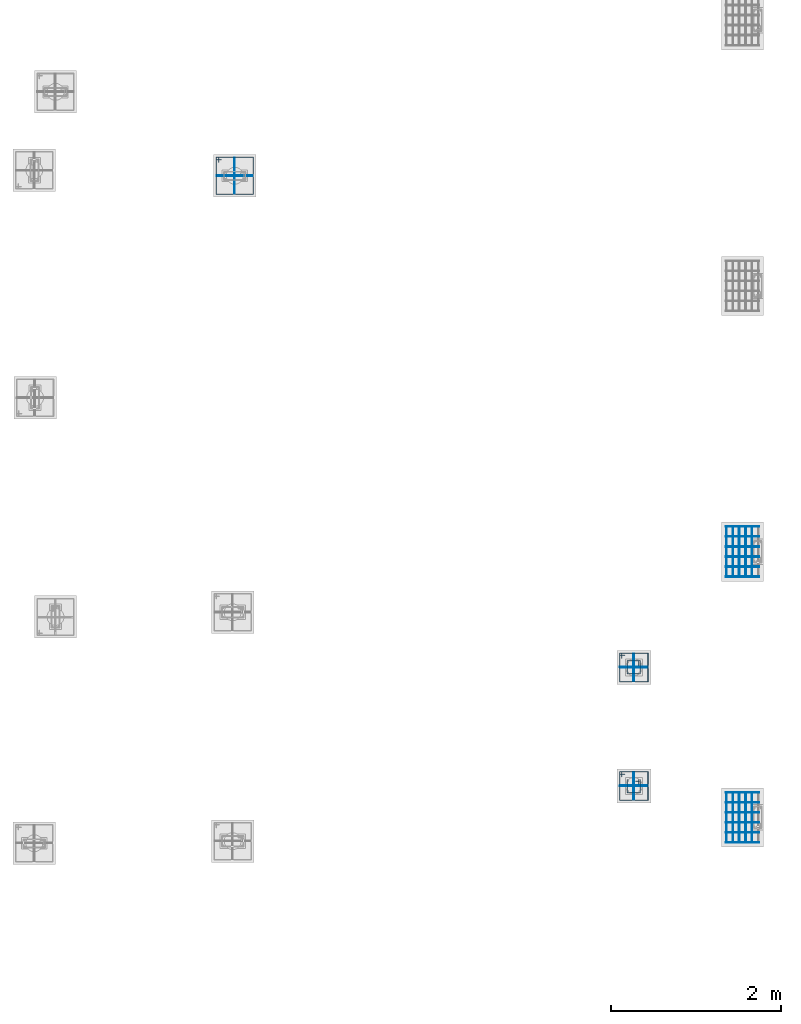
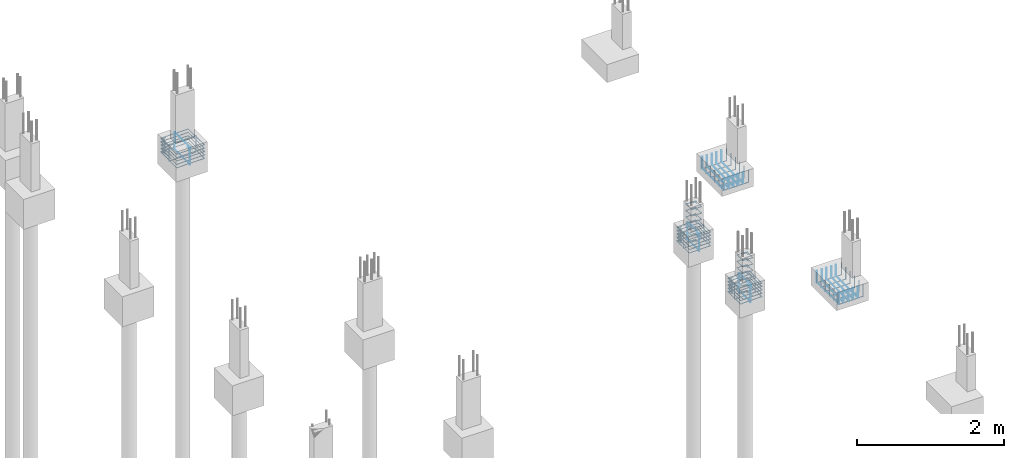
# One storey, part 115 of 119: 57 reinforcing bars.
"""IFC4 building model written with IfcOpenShell, lengths in centimetres."""

from ifc_helpers import new_model, entity, si_unit, derived_unit, frame, origin_with_axes, place, context, project, spatial, source, transform, mapped, element, save


model = new_model("IFC4")

# Units and contexts
model_context = context("Model", 3, precision=1e-05, world=origin_with_axes(), identifier="Body")
ifc_project = project(units=[si_unit("LENGTHUNIT", "METRE", prefix="CENTI"), si_unit("VOLUMEUNIT", "CUBIC_METRE"), si_unit("AREAUNIT", "SQUARE_METRE"), si_unit("POWERUNIT", "WATT"), si_unit("LUMINOUSFLUXUNIT", "LUMEN"), si_unit("ELECTRICCURRENTUNIT", "AMPERE"), si_unit("PRESSUREUNIT", "PASCAL", prefix="KILO"), si_unit("MASSUNIT", "GRAM", prefix="KILO"), si_unit("PLANEANGLEUNIT", "RADIAN"), derived_unit("VOLUMETRICFLOWRATEUNIT", [(si_unit("LENGTHUNIT", "METRE"), 3), (si_unit("TIMEUNIT", "SECOND"), -1)])], contexts=[model_context])

# Site, building, storey
site_placement = place(None, frame((-4000.0, 0.0, 0.0), z_axis=(0.0, 0.0, 1.0), x_axis=(1.0, 0.0, 0.0)))
site = spatial("IfcSite", under=ifc_project, at=site_placement, Name="PADRÃO")
building_placement = place(site_placement, frame((0.0, 0.0, -14.0)))
building = spatial("IfcBuilding", under=site, at=building_placement, Name="CRECHE PRÉ-ESCOLA TIPO 2")
storey_placement = place(building_placement, origin_with_axes())
storey = spatial("IfcBuildingStorey", under=building, at=storey_placement, Name="FUNDAÇÃO", CompositionType="ELEMENT", Elevation=-14.0)

# Reinforcing bars
shared_shape_1 = source(origin_with_axes(), model_context, "Body", "AdvancedSweptSolid", [
    entity("IfcSweptDiskSolid", entity("IfcCompositeCurve", [entity("IfcCompositeCurveSegment", "CONTINUOUS", True, entity("IfcPolyline", [entity("IfcCartesianPoint", [0.0, 0.0, 19.6]), entity("IfcCartesianPoint", [0.0, 0.0, 0.0])])), entity("IfcCompositeCurveSegment", "CONTINUOUS", True, entity("IfcPolyline", [entity("IfcCartesianPoint", [0.0, 0.0, 0.0]), entity("IfcCartesianPoint", [39.2, 0.0, 0.0])])), entity("IfcCompositeCurveSegment", "CONTINUOUS", True, entity("IfcPolyline", [entity("IfcCartesianPoint", [39.2, 0.0, 0.0]), entity("IfcCartesianPoint", [39.2, 0.0, 19.6])]))], False), 0.4),
])
for number, where, z_axis, x_axis, name in (
    (1, (3993.6, 3245.76, -83.6), (0.0, 0.0, 1.0), (-1.0, 0.0, 0.0), "P57 - Sapatas (inferior)"),
    (2, (3993.6, 3198.4, -83.6), (0.0, 0.0, 1.0), (-1.0, 0.0, 0.0), "P57 - Sapatas (inferior)"),
    (3, (3993.6, 3210.24, -83.6), (0.0, 0.0, 1.0), (-1.0, 0.0, 0.0), "P57 - Sapatas (inferior)"),
    (4, (3993.6, 3222.08, -83.6), (0.0, 0.0, 1.0), (-1.0, 0.0, 0.0), "P57 - Sapatas (inferior)"),
    (5, (3993.6, 3233.92, -83.6), (0.0, 0.0, 1.0), (-1.0, 0.0, 0.0), "P57 - Sapatas (inferior)"),
    (6, (3993.6, 3257.6, -83.6), (0.0, 0.0, 1.0), (-1.0, 0.0, 0.0), "P57 - Sapatas (inferior)"),
):
    element("IfcReinforcingBar", number, at=place(storey_placement, frame(where, z_axis=z_axis, x_axis=x_axis)), inside=storey, Name=name, BarLength=0.0, CrossSectionArea=5.0265482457e-05, NominalDiameter=0.8, PredefinedType="MAIN", context=model_context, shape_type="MappedRepresentation", body=[
        mapped(shared_shape_1, transform((0.0, 0.0, 0.0), scale=1.0)),
    ])
shared_shape_2 = source(origin_with_axes(), model_context, "Body", "AdvancedSweptSolid", [
    entity("IfcSweptDiskSolid", entity("IfcCompositeCurve", [entity("IfcCompositeCurveSegment", "CONTINUOUS", True, entity("IfcPolyline", [entity("IfcCartesianPoint", [0.0, 0.0, 18.8]), entity("IfcCartesianPoint", [0.0, 0.0, 0.0])])), entity("IfcCompositeCurveSegment", "CONTINUOUS", True, entity("IfcPolyline", [entity("IfcCartesianPoint", [0.0, 0.0, 0.0]), entity("IfcCartesianPoint", [0.0, 59.2, 0.0])])), entity("IfcCompositeCurveSegment", "CONTINUOUS", True, entity("IfcPolyline", [entity("IfcCartesianPoint", [0.0, 59.2, 0.0]), entity("IfcCartesianPoint", [0.0, 59.2, 18.8])]))], False), 0.4),
])
for number, where, z_axis, x_axis, name in (
    (7, (3985.28, 3257.6, -82.8), (0.0, 0.0, 1.0), (-1.0, 0.0, 0.0), "P57 - Sapatas (inferior)"),
    (8, (3962.72, 3257.6, -82.8), (0.0, 0.0, 1.0), (-1.0, 0.0, 0.0), "P57 - Sapatas (inferior)"),
    (9, (3955.2, 3257.6, -82.8), (0.0, 0.0, 1.0), (-1.0, 0.0, 0.0), "P57 - Sapatas (inferior)"),
    (10, (3970.24, 3257.6, -82.8), (0.0, 0.0, 1.0), (-1.0, 0.0, 0.0), "P57 - Sapatas (inferior)"),
    (11, (3977.76, 3257.6, -82.8), (0.0, 0.0, 1.0), (-1.0, 0.0, 0.0), "P57 - Sapatas (inferior)"),
):
    element("IfcReinforcingBar", number, at=place(storey_placement, frame(where, z_axis=z_axis, x_axis=x_axis)), inside=storey, Name=name, BarLength=0.0, CrossSectionArea=5.0265482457e-05, NominalDiameter=0.8, PredefinedType="MAIN", context=model_context, shape_type="MappedRepresentation", body=[
        mapped(shared_shape_2, transform((0.0, 0.0, 0.0), scale=1.0)),
    ])
shared_shape_3 = source(origin_with_axes(), model_context, "Body", "AdvancedSweptSolid", [
    entity("IfcSweptDiskSolid", entity("IfcCompositeCurve", [entity("IfcCompositeCurveSegment", "CONTINUOUS", True, entity("IfcPolyline", [entity("IfcCartesianPoint", [0.0, 0.0, 19.6]), entity("IfcCartesianPoint", [0.0, 0.0, 0.0])])), entity("IfcCompositeCurveSegment", "CONTINUOUS", True, entity("IfcPolyline", [entity("IfcCartesianPoint", [0.0, 0.0, 0.0]), entity("IfcCartesianPoint", [39.2, 0.0, 0.0])])), entity("IfcCompositeCurveSegment", "CONTINUOUS", True, entity("IfcPolyline", [entity("IfcCartesianPoint", [39.2, 0.0, 0.0]), entity("IfcCartesianPoint", [39.2, 0.0, 19.6])]))], False), 0.4),
])
for number, where, z_axis, x_axis, name in (
    (12, (3993.6, 3511.9, -83.6), (0.0, 0.0, 1.0), (-1.0, 0.0, 0.0), "P38 - Sapatas (inferior)"),
    (13, (3993.6, 3535.58, -83.6), (0.0, 0.0, 1.0), (-1.0, 0.0, 0.0), "P38 - Sapatas (inferior)"),
    (14, (3993.6, 3559.26, -83.6), (0.0, 0.0, 1.0), (-1.0, 0.0, 0.0), "P38 - Sapatas (inferior)"),
    (15, (3993.6, 3547.42, -83.6), (0.0, 0.0, 1.0), (-1.0, 0.0, 0.0), "P38 - Sapatas (inferior)"),
    (16, (3993.6, 3523.74, -83.6), (0.0, 0.0, 1.0), (-1.0, 0.0, 0.0), "P38 - Sapatas (inferior)"),
    (17, (3993.6, 3571.1, -83.6), (0.0, 0.0, 1.0), (-1.0, 0.0, 0.0), "P38 - Sapatas (inferior)"),
):
    element("IfcReinforcingBar", number, at=place(storey_placement, frame(where, z_axis=z_axis, x_axis=x_axis)), inside=storey, Name=name, BarLength=0.0, CrossSectionArea=5.0265482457e-05, NominalDiameter=0.8, PredefinedType="MAIN", context=model_context, shape_type="MappedRepresentation", body=[
        mapped(shared_shape_3, transform((0.0, 0.0, 0.0), scale=1.0)),
    ])
shared_shape_4 = source(origin_with_axes(), model_context, "Body", "AdvancedSweptSolid", [
    entity("IfcSweptDiskSolid", entity("IfcCompositeCurve", [entity("IfcCompositeCurveSegment", "CONTINUOUS", True, entity("IfcPolyline", [entity("IfcCartesianPoint", [0.0, 0.0, 18.8]), entity("IfcCartesianPoint", [0.0, 0.0, 0.0])])), entity("IfcCompositeCurveSegment", "CONTINUOUS", True, entity("IfcPolyline", [entity("IfcCartesianPoint", [0.0, 0.0, 0.0]), entity("IfcCartesianPoint", [0.0, 59.2, 0.0])])), entity("IfcCompositeCurveSegment", "CONTINUOUS", True, entity("IfcPolyline", [entity("IfcCartesianPoint", [0.0, 59.2, 0.0]), entity("IfcCartesianPoint", [0.0, 59.2, 18.8])]))], False), 0.4),
])
for number, where, z_axis, x_axis, name in (
    (18, (3962.72, 3571.1, -82.8), (0.0, 0.0, 1.0), (-1.0, 0.0, 0.0), "P38 - Sapatas (inferior)"),
    (19, (3955.2, 3571.1, -82.8), (0.0, 0.0, 1.0), (-1.0, 0.0, 0.0), "P38 - Sapatas (inferior)"),
    (20, (3970.24, 3571.1, -82.8), (0.0, 0.0, 1.0), (-1.0, 0.0, 0.0), "P38 - Sapatas (inferior)"),
    (21, (3985.28, 3571.1, -82.8), (0.0, 0.0, 1.0), (-1.0, 0.0, 0.0), "P38 - Sapatas (inferior)"),
    (22, (3977.76, 3571.1, -82.8), (0.0, 0.0, 1.0), (-1.0, 0.0, 0.0), "P38 - Sapatas (inferior)"),
):
    element("IfcReinforcingBar", number, at=place(storey_placement, frame(where, z_axis=z_axis, x_axis=x_axis)), inside=storey, Name=name, BarLength=0.0, CrossSectionArea=5.0265482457e-05, NominalDiameter=0.8, PredefinedType="MAIN", context=model_context, shape_type="MappedRepresentation", body=[
        mapped(shared_shape_4, transform((0.0, 0.0, 0.0), scale=1.0)),
    ])
shared_shape_5 = source(origin_with_axes(), model_context, "Body", "AdvancedSweptSolid", [
    entity("IfcSweptDiskSolid", entity("IfcCompositeCurve", [entity("IfcCompositeCurveSegment", "CONTINUOUS", True, entity("IfcPolyline", [entity("IfcCartesianPoint", [3355.835, 4000.435, 0.0]), entity("IfcCartesianPoint", [3355.835, 4006.695, 0.0])])), entity("IfcCompositeCurveSegment", "CONTINUOUS", True, entity("IfcPolyline", [entity("IfcCartesianPoint", [3355.835, 4006.695, 0.0]), entity("IfcCartesianPoint", [3353.315, 4006.695, 0.0])])), entity("IfcCompositeCurveSegment", "CONTINUOUS", True, entity("IfcPolyline", [entity("IfcCartesianPoint", [3353.315, 4006.695, 0.0]), entity("IfcCartesianPoint", [3353.315, 3963.325, 0.0])])), entity("IfcCompositeCurveSegment", "CONTINUOUS", True, entity("IfcPolyline", [entity("IfcCartesianPoint", [3353.315, 3963.325, 0.0]), entity("IfcCartesianPoint", [3396.685, 3963.325, 0.63])])), entity("IfcCompositeCurveSegment", "CONTINUOUS", True, entity("IfcPolyline", [entity("IfcCartesianPoint", [3396.685, 3963.325, 0.63]), entity("IfcCartesianPoint", [3396.685, 4006.695, 0.63])])), entity("IfcCompositeCurveSegment", "CONTINUOUS", True, entity("IfcPolyline", [entity("IfcCartesianPoint", [3396.685, 4006.695, 0.63]), entity("IfcCartesianPoint", [3353.315, 4006.695, 0.63])])), entity("IfcCompositeCurveSegment", "CONTINUOUS", True, entity("IfcPolyline", [entity("IfcCartesianPoint", [3353.315, 4006.695, 0.63]), entity("IfcCartesianPoint", [3353.315, 4004.175, 0.63])])), entity("IfcCompositeCurveSegment", "CONTINUOUS", True, entity("IfcPolyline", [entity("IfcCartesianPoint", [3353.315, 4004.175, 0.63]), entity("IfcCartesianPoint", [3359.575, 4004.175, 0.63])]))], False), 0.315),
])
for number, where, z_axis, x_axis, name in (
    (23, (0.0, 0.0, -109.175), (0.0, 0.0, 1.0), (1.0, 0.0, 0.0), "P28 - Blocos (estribos)"),
    (24, (0.0, 0.0, -97.875), (0.0, 0.0, 1.0), (1.0, 0.0, 0.0), "P28 - Blocos (estribos)"),
    (25, (0.0, 0.0, -92.225), (0.0, 0.0, 1.0), (1.0, 0.0, 0.0), "P28 - Blocos (estribos)"),
    (26, (0.0, 0.0, -86.575), (0.0, 0.0, 1.0), (1.0, 0.0, 0.0), "P28 - Blocos (estribos)"),
    (27, (0.0, 0.0, -103.525), (0.0, 0.0, 1.0), (1.0, 0.0, 0.0), "P28 - Blocos (estribos)"),
):
    element("IfcReinforcingBar", number, at=place(storey_placement, frame(where, z_axis=z_axis, x_axis=x_axis)), inside=storey, Name=name, BarLength=0.0, CrossSectionArea=3.1172453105e-05, NominalDiameter=0.63, PredefinedType="MAIN", context=model_context, shape_type="MappedRepresentation", body=[
        mapped(shared_shape_5, transform((0.0, 0.0, 0.0), scale=1.0)),
    ])
shared_shape_6 = source(origin_with_axes(), model_context, "Body", "AdvancedSweptSolid", [
    entity("IfcSweptDiskSolid", entity("IfcCompositeCurve", [entity("IfcCompositeCurveSegment", "CONTINUOUS", True, entity("IfcPolyline", [entity("IfcCartesianPoint", [-15.12, -12.0, 0.0]), entity("IfcCartesianPoint", [-21.12, -12.0, 0.0])])), entity("IfcCompositeCurveSegment", "CONTINUOUS", True, entity("IfcPolyline", [entity("IfcCartesianPoint", [-21.12, -12.0, 0.0]), entity("IfcCartesianPoint", [-21.12, -14.0, 0.0])])), entity("IfcCompositeCurveSegment", "CONTINUOUS", True, entity("IfcPolyline", [entity("IfcCartesianPoint", [-21.12, -14.0, 0.0]), entity("IfcCartesianPoint", [21.12, -14.0, 0.0])])), entity("IfcCompositeCurveSegment", "CONTINUOUS", True, entity("IfcPolyline", [entity("IfcCartesianPoint", [21.12, -14.0, 0.0]), entity("IfcCartesianPoint", [21.12, 14.0, 0.5])])), entity("IfcCompositeCurveSegment", "CONTINUOUS", True, entity("IfcPolyline", [entity("IfcCartesianPoint", [21.12, 14.0, 0.5]), entity("IfcCartesianPoint", [-21.12, 14.0, 0.5])])), entity("IfcCompositeCurveSegment", "CONTINUOUS", True, entity("IfcPolyline", [entity("IfcCartesianPoint", [-21.12, 14.0, 0.5]), entity("IfcCartesianPoint", [-21.12, -14.0, 0.5])])), entity("IfcCompositeCurveSegment", "CONTINUOUS", True, entity("IfcPolyline", [entity("IfcCartesianPoint", [-21.12, -14.0, 0.5]), entity("IfcCartesianPoint", [-19.12, -14.0, 0.5])])), entity("IfcCompositeCurveSegment", "CONTINUOUS", True, entity("IfcPolyline", [entity("IfcCartesianPoint", [-19.12, -14.0, 0.5]), entity("IfcCartesianPoint", [-19.12, -8.0, 0.5])]))], False), 0.25),
])
reinforcing_bar_1_placement = place(storey_placement, frame((3375.0, 3985.01, -97.75), z_axis=(0.0, 1.0, 0.0), x_axis=(1.0, 0.0, 0.0)))
element("IfcReinforcingBar", 28, at=reinforcing_bar_1_placement, inside=storey, Name="P28 - Blocos (estribos)", BarLength=0.0, CrossSectionArea=1.9634954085e-05, NominalDiameter=0.5, PredefinedType="MAIN", context=model_context, shape_type="MappedRepresentation", body=[
    mapped(shared_shape_6, transform((0.0, 0.0, 0.0), scale=1.0)),
])
shared_shape_7 = source(origin_with_axes(), model_context, "Body", "AdvancedSweptSolid", [
    entity("IfcSweptDiskSolid", entity("IfcCompositeCurve", [entity("IfcCompositeCurveSegment", "CONTINUOUS", True, entity("IfcPolyline", [entity("IfcCartesianPoint", [-15.12, -12.0, 0.0]), entity("IfcCartesianPoint", [-21.12, -12.0, 0.0])])), entity("IfcCompositeCurveSegment", "CONTINUOUS", True, entity("IfcPolyline", [entity("IfcCartesianPoint", [-21.12, -12.0, 0.0]), entity("IfcCartesianPoint", [-21.12, -14.0, 0.0])])), entity("IfcCompositeCurveSegment", "CONTINUOUS", True, entity("IfcPolyline", [entity("IfcCartesianPoint", [-21.12, -14.0, 0.0]), entity("IfcCartesianPoint", [21.12, -14.0, 0.0])])), entity("IfcCompositeCurveSegment", "CONTINUOUS", True, entity("IfcPolyline", [entity("IfcCartesianPoint", [21.12, -14.0, 0.0]), entity("IfcCartesianPoint", [21.12, 14.0, 0.5])])), entity("IfcCompositeCurveSegment", "CONTINUOUS", True, entity("IfcPolyline", [entity("IfcCartesianPoint", [21.12, 14.0, 0.5]), entity("IfcCartesianPoint", [-21.12, 14.0, 0.5])])), entity("IfcCompositeCurveSegment", "CONTINUOUS", True, entity("IfcPolyline", [entity("IfcCartesianPoint", [-21.12, 14.0, 0.5]), entity("IfcCartesianPoint", [-21.12, -14.0, 0.5])])), entity("IfcCompositeCurveSegment", "CONTINUOUS", True, entity("IfcPolyline", [entity("IfcCartesianPoint", [-21.12, -14.0, 0.5]), entity("IfcCartesianPoint", [-19.12, -14.0, 0.5])])), entity("IfcCompositeCurveSegment", "CONTINUOUS", True, entity("IfcPolyline", [entity("IfcCartesianPoint", [-19.12, -14.0, 0.5]), entity("IfcCartesianPoint", [-19.12, -8.0, 0.5])]))], False), 0.25),
])
reinforcing_bar_2_placement = place(storey_placement, frame((3375.0, 3985.01, -97.75), z_axis=(-1.0, 0.0, 0.0), x_axis=(0.0, 1.0, 0.0)))
element("IfcReinforcingBar", 29, at=reinforcing_bar_2_placement, inside=storey, Name="P28 - Blocos (estribos)", BarLength=0.0, CrossSectionArea=1.9634954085e-05, NominalDiameter=0.5, PredefinedType="MAIN", context=model_context, shape_type="MappedRepresentation", body=[
    mapped(shared_shape_7, transform((0.0, 0.0, 0.0), scale=1.0)),
])
shared_shape_8 = source(origin_with_axes(), model_context, "Body", "AdvancedSweptSolid", [
    entity("IfcSweptDiskSolid", entity("IfcCompositeCurve", [entity("IfcCompositeCurveSegment", "CONTINUOUS", True, entity("IfcPolyline", [entity("IfcCartesianPoint", [4.25, 11.75, 0.0]), entity("IfcCartesianPoint", [4.25, 17.75, 0.0])])), entity("IfcCompositeCurveSegment", "CONTINUOUS", True, entity("IfcPolyline", [entity("IfcCartesianPoint", [4.25, 17.75, 0.0]), entity("IfcCartesianPoint", [2.25, 17.75, 0.0])])), entity("IfcCompositeCurveSegment", "CONTINUOUS", True, entity("IfcPolyline", [entity("IfcCartesianPoint", [2.25, 17.75, 0.0]), entity("IfcCartesianPoint", [2.25, 2.25, 0.0])])), entity("IfcCompositeCurveSegment", "CONTINUOUS", True, entity("IfcPolyline", [entity("IfcCartesianPoint", [2.25, 2.25, 0.0]), entity("IfcCartesianPoint", [17.75, 2.25, 0.0])])), entity("IfcCompositeCurveSegment", "CONTINUOUS", True, entity("IfcPolyline", [entity("IfcCartesianPoint", [17.75, 2.25, 0.0]), entity("IfcCartesianPoint", [17.75, 17.75, -0.5])])), entity("IfcCompositeCurveSegment", "CONTINUOUS", True, entity("IfcPolyline", [entity("IfcCartesianPoint", [17.75, 17.75, -0.5]), entity("IfcCartesianPoint", [2.25, 17.75, -0.5])])), entity("IfcCompositeCurveSegment", "CONTINUOUS", True, entity("IfcPolyline", [entity("IfcCartesianPoint", [2.25, 17.75, -0.5]), entity("IfcCartesianPoint", [2.25, 15.75, -0.5])])), entity("IfcCompositeCurveSegment", "CONTINUOUS", True, entity("IfcPolyline", [entity("IfcCartesianPoint", [2.25, 15.75, -0.5]), entity("IfcCartesianPoint", [8.25, 15.75, -0.5])]))], False), 0.25),
])
for number, where, z_axis, x_axis, name in (
    (30, (3835.84, 3415.02, -69.6428571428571), (0.0, 0.0, 1.0), (0.0, -1.0, 0.0), "PM1 - Estribo"),
    (31, (3835.84, 3415.02, -58.9285714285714), (0.0, 0.0, 1.0), (0.0, -1.0, 0.0), "PM1 - Estribo"),
    (32, (3835.84, 3415.02, -48.2142857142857), (0.0, 0.0, 1.0), (0.0, -1.0, 0.0), "PM1 - Estribo"),
    (33, (3835.84, 3415.02, -37.5), (0.0, 0.0, 1.0), (0.0, -1.0, 0.0), "PM1 - Estribo"),
    (34, (3835.84, 3415.02, -26.7857142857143), (0.0, 0.0, 1.0), (0.0, -1.0, 0.0), "PM1 - Estribo"),
    (35, (3835.84, 3415.02, -16.0714285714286), (0.0, 0.0, 1.0), (0.0, -1.0, 0.0), "PM1 - Estribo"),
    (36, (3835.84, 3415.02, -5.35714285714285), (0.0, 0.0, 1.0), (0.0, -1.0, 0.0), "PM1 - Estribo"),
):
    element("IfcReinforcingBar", number, at=place(storey_placement, frame(where, z_axis=z_axis, x_axis=x_axis)), inside=storey, Name=name, BarLength=0.0, CrossSectionArea=1.9634954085e-05, NominalDiameter=0.5, PredefinedType="MAIN", context=model_context, shape_type="MappedRepresentation", body=[
        mapped(shared_shape_8, transform((0.0, 0.0, 0.0), scale=1.0)),
    ])
shared_shape_9 = source(origin_with_axes(), model_context, "Body", "AdvancedSweptSolid", [
    entity("IfcSweptDiskSolid", entity("IfcCompositeCurve", [entity("IfcCompositeCurveSegment", "CONTINUOUS", True, entity("IfcPolyline", [entity("IfcCartesianPoint", [3831.675, 3415.445, 0.0]), entity("IfcCartesianPoint", [3831.675, 3421.705, 0.0])])), entity("IfcCompositeCurveSegment", "CONTINUOUS", True, entity("IfcPolyline", [entity("IfcCartesianPoint", [3831.675, 3421.705, 0.0]), entity("IfcCartesianPoint", [3829.155, 3421.705, 0.0])])), entity("IfcCompositeCurveSegment", "CONTINUOUS", True, entity("IfcPolyline", [entity("IfcCartesianPoint", [3829.155, 3421.705, 0.0]), entity("IfcCartesianPoint", [3829.155, 3388.335, 0.0])])), entity("IfcCompositeCurveSegment", "CONTINUOUS", True, entity("IfcPolyline", [entity("IfcCartesianPoint", [3829.155, 3388.335, 0.0]), entity("IfcCartesianPoint", [3862.525, 3388.335, 0.63])])), entity("IfcCompositeCurveSegment", "CONTINUOUS", True, entity("IfcPolyline", [entity("IfcCartesianPoint", [3862.525, 3388.335, 0.63]), entity("IfcCartesianPoint", [3862.525, 3421.705, 0.63])])), entity("IfcCompositeCurveSegment", "CONTINUOUS", True, entity("IfcPolyline", [entity("IfcCartesianPoint", [3862.525, 3421.705, 0.63]), entity("IfcCartesianPoint", [3829.155, 3421.705, 0.63])])), entity("IfcCompositeCurveSegment", "CONTINUOUS", True, entity("IfcPolyline", [entity("IfcCartesianPoint", [3829.155, 3421.705, 0.63]), entity("IfcCartesianPoint", [3829.155, 3419.185, 0.63])])), entity("IfcCompositeCurveSegment", "CONTINUOUS", True, entity("IfcPolyline", [entity("IfcCartesianPoint", [3829.155, 3419.185, 0.63]), entity("IfcCartesianPoint", [3835.415, 3419.185, 0.63])]))], False), 0.315),
])
for number, where, z_axis, x_axis, name in (
    (37, (0.0, 0.0, -52.225), (0.0, 0.0, 1.0), (1.0, 0.0, 0.0), "PM1 - Blocos (estribos)"),
    (38, (0.0, 0.0, -46.575), (0.0, 0.0, 1.0), (1.0, 0.0, 0.0), "PM1 - Blocos (estribos)"),
    (39, (0.0, 0.0, -69.175), (0.0, 0.0, 1.0), (1.0, 0.0, 0.0), "PM1 - Blocos (estribos)"),
    (40, (0.0, 0.0, -63.525), (0.0, 0.0, 1.0), (1.0, 0.0, 0.0), "PM1 - Blocos (estribos)"),
    (41, (0.0, 0.0, -57.875), (0.0, 0.0, 1.0), (1.0, 0.0, 0.0), "PM1 - Blocos (estribos)"),
):
    element("IfcReinforcingBar", number, at=place(storey_placement, frame(where, z_axis=z_axis, x_axis=x_axis)), inside=storey, Name=name, BarLength=0.0, CrossSectionArea=3.1172453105e-05, NominalDiameter=0.63, PredefinedType="MAIN", context=model_context, shape_type="MappedRepresentation", body=[
        mapped(shared_shape_9, transform((0.0, 0.0, 0.0), scale=1.0)),
    ])
shared_shape_10 = source(origin_with_axes(), model_context, "Body", "AdvancedSweptSolid", [
    entity("IfcSweptDiskSolid", entity("IfcCompositeCurve", [entity("IfcCompositeCurveSegment", "CONTINUOUS", True, entity("IfcPolyline", [entity("IfcCartesianPoint", [-10.12, -12.0, 0.0]), entity("IfcCartesianPoint", [-16.12, -12.0, 0.0])])), entity("IfcCompositeCurveSegment", "CONTINUOUS", True, entity("IfcPolyline", [entity("IfcCartesianPoint", [-16.12, -12.0, 0.0]), entity("IfcCartesianPoint", [-16.12, -14.0, 0.0])])), entity("IfcCompositeCurveSegment", "CONTINUOUS", True, entity("IfcPolyline", [entity("IfcCartesianPoint", [-16.12, -14.0, 0.0]), entity("IfcCartesianPoint", [16.12, -14.0, 0.0])])), entity("IfcCompositeCurveSegment", "CONTINUOUS", True, entity("IfcPolyline", [entity("IfcCartesianPoint", [16.12, -14.0, 0.0]), entity("IfcCartesianPoint", [16.12, 14.0, 0.5])])), entity("IfcCompositeCurveSegment", "CONTINUOUS", True, entity("IfcPolyline", [entity("IfcCartesianPoint", [16.12, 14.0, 0.5]), entity("IfcCartesianPoint", [-16.12, 14.0, 0.5])])), entity("IfcCompositeCurveSegment", "CONTINUOUS", True, entity("IfcPolyline", [entity("IfcCartesianPoint", [-16.12, 14.0, 0.5]), entity("IfcCartesianPoint", [-16.12, -14.0, 0.5])])), entity("IfcCompositeCurveSegment", "CONTINUOUS", True, entity("IfcPolyline", [entity("IfcCartesianPoint", [-16.12, -14.0, 0.5]), entity("IfcCartesianPoint", [-14.12, -14.0, 0.5])])), entity("IfcCompositeCurveSegment", "CONTINUOUS", True, entity("IfcPolyline", [entity("IfcCartesianPoint", [-14.12, -14.0, 0.5]), entity("IfcCartesianPoint", [-14.12, -8.0, 0.5])]))], False), 0.25),
])
reinforcing_bar_3_placement = place(storey_placement, frame((3845.84, 3405.02, -57.75), z_axis=(0.0, 1.0, 0.0), x_axis=(1.0, 0.0, 0.0)))
element("IfcReinforcingBar", 42, at=reinforcing_bar_3_placement, inside=storey, Name="PM1 - Blocos (estribos)", BarLength=0.0, CrossSectionArea=1.9634954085e-05, NominalDiameter=0.5, PredefinedType="MAIN", context=model_context, shape_type="MappedRepresentation", body=[
    mapped(shared_shape_10, transform((0.0, 0.0, 0.0), scale=1.0)),
])
shared_shape_11 = source(origin_with_axes(), model_context, "Body", "AdvancedSweptSolid", [
    entity("IfcSweptDiskSolid", entity("IfcCompositeCurve", [entity("IfcCompositeCurveSegment", "CONTINUOUS", True, entity("IfcPolyline", [entity("IfcCartesianPoint", [-10.12, -12.0, 0.0]), entity("IfcCartesianPoint", [-16.12, -12.0, 0.0])])), entity("IfcCompositeCurveSegment", "CONTINUOUS", True, entity("IfcPolyline", [entity("IfcCartesianPoint", [-16.12, -12.0, 0.0]), entity("IfcCartesianPoint", [-16.12, -14.0, 0.0])])), entity("IfcCompositeCurveSegment", "CONTINUOUS", True, entity("IfcPolyline", [entity("IfcCartesianPoint", [-16.12, -14.0, 0.0]), entity("IfcCartesianPoint", [16.12, -14.0, 0.0])])), entity("IfcCompositeCurveSegment", "CONTINUOUS", True, entity("IfcPolyline", [entity("IfcCartesianPoint", [16.12, -14.0, 0.0]), entity("IfcCartesianPoint", [16.12, 14.0, 0.5])])), entity("IfcCompositeCurveSegment", "CONTINUOUS", True, entity("IfcPolyline", [entity("IfcCartesianPoint", [16.12, 14.0, 0.5]), entity("IfcCartesianPoint", [-16.12, 14.0, 0.5])])), entity("IfcCompositeCurveSegment", "CONTINUOUS", True, entity("IfcPolyline", [entity("IfcCartesianPoint", [-16.12, 14.0, 0.5]), entity("IfcCartesianPoint", [-16.12, -14.0, 0.5])])), entity("IfcCompositeCurveSegment", "CONTINUOUS", True, entity("IfcPolyline", [entity("IfcCartesianPoint", [-16.12, -14.0, 0.5]), entity("IfcCartesianPoint", [-14.12, -14.0, 0.5])])), entity("IfcCompositeCurveSegment", "CONTINUOUS", True, entity("IfcPolyline", [entity("IfcCartesianPoint", [-14.12, -14.0, 0.5]), entity("IfcCartesianPoint", [-14.12, -8.0, 0.5])]))], False), 0.25),
])
reinforcing_bar_4_placement = place(storey_placement, frame((3845.84, 3405.02, -57.75), z_axis=(-1.0, 0.0, 0.0), x_axis=(0.0, 1.0, 0.0)))
element("IfcReinforcingBar", 43, at=reinforcing_bar_4_placement, inside=storey, Name="PM1 - Blocos (estribos)", BarLength=0.0, CrossSectionArea=1.9634954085e-05, NominalDiameter=0.5, PredefinedType="MAIN", context=model_context, shape_type="MappedRepresentation", body=[
    mapped(shared_shape_11, transform((0.0, 0.0, 0.0), scale=1.0)),
])
shared_shape_12 = source(origin_with_axes(), model_context, "Body", "AdvancedSweptSolid", [
    entity("IfcSweptDiskSolid", entity("IfcCompositeCurve", [entity("IfcCompositeCurveSegment", "CONTINUOUS", True, entity("IfcPolyline", [entity("IfcCartesianPoint", [4.25, 11.75, 0.0]), entity("IfcCartesianPoint", [4.25, 17.75, 0.0])])), entity("IfcCompositeCurveSegment", "CONTINUOUS", True, entity("IfcPolyline", [entity("IfcCartesianPoint", [4.25, 17.75, 0.0]), entity("IfcCartesianPoint", [2.25, 17.75, 0.0])])), entity("IfcCompositeCurveSegment", "CONTINUOUS", True, entity("IfcPolyline", [entity("IfcCartesianPoint", [2.25, 17.75, 0.0]), entity("IfcCartesianPoint", [2.25, 2.25, 0.0])])), entity("IfcCompositeCurveSegment", "CONTINUOUS", True, entity("IfcPolyline", [entity("IfcCartesianPoint", [2.25, 2.25, 0.0]), entity("IfcCartesianPoint", [17.75, 2.25, 0.0])])), entity("IfcCompositeCurveSegment", "CONTINUOUS", True, entity("IfcPolyline", [entity("IfcCartesianPoint", [17.75, 2.25, 0.0]), entity("IfcCartesianPoint", [17.75, 17.75, -0.5])])), entity("IfcCompositeCurveSegment", "CONTINUOUS", True, entity("IfcPolyline", [entity("IfcCartesianPoint", [17.75, 17.75, -0.5]), entity("IfcCartesianPoint", [2.25, 17.75, -0.5])])), entity("IfcCompositeCurveSegment", "CONTINUOUS", True, entity("IfcPolyline", [entity("IfcCartesianPoint", [2.25, 17.75, -0.5]), entity("IfcCartesianPoint", [2.25, 15.75, -0.5])])), entity("IfcCompositeCurveSegment", "CONTINUOUS", True, entity("IfcPolyline", [entity("IfcCartesianPoint", [2.25, 15.75, -0.5]), entity("IfcCartesianPoint", [8.25, 15.75, -0.5])]))], False), 0.25),
])
for number, where, z_axis, x_axis, name in (
    (44, (3835.84, 3275.02, -5.35714285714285), (0.0, 0.0, 1.0), (0.0, -1.0, 0.0), "PM2 - Estribo"),
    (45, (3835.84, 3275.02, -69.6428571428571), (0.0, 0.0, 1.0), (0.0, -1.0, 0.0), "PM2 - Estribo"),
    (46, (3835.84, 3275.02, -58.9285714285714), (0.0, 0.0, 1.0), (0.0, -1.0, 0.0), "PM2 - Estribo"),
    (47, (3835.84, 3275.02, -48.2142857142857), (0.0, 0.0, 1.0), (0.0, -1.0, 0.0), "PM2 - Estribo"),
    (48, (3835.84, 3275.02, -37.5), (0.0, 0.0, 1.0), (0.0, -1.0, 0.0), "PM2 - Estribo"),
    (49, (3835.84, 3275.02, -26.7857142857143), (0.0, 0.0, 1.0), (0.0, -1.0, 0.0), "PM2 - Estribo"),
    (50, (3835.84, 3275.02, -16.0714285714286), (0.0, 0.0, 1.0), (0.0, -1.0, 0.0), "PM2 - Estribo"),
):
    element("IfcReinforcingBar", number, at=place(storey_placement, frame(where, z_axis=z_axis, x_axis=x_axis)), inside=storey, Name=name, BarLength=0.0, CrossSectionArea=1.9634954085e-05, NominalDiameter=0.5, PredefinedType="MAIN", context=model_context, shape_type="MappedRepresentation", body=[
        mapped(shared_shape_12, transform((0.0, 0.0, 0.0), scale=1.0)),
    ])
shared_shape_13 = source(origin_with_axes(), model_context, "Body", "AdvancedSweptSolid", [
    entity("IfcSweptDiskSolid", entity("IfcCompositeCurve", [entity("IfcCompositeCurveSegment", "CONTINUOUS", True, entity("IfcPolyline", [entity("IfcCartesianPoint", [3831.675, 3275.445, 0.0]), entity("IfcCartesianPoint", [3831.675, 3281.705, 0.0])])), entity("IfcCompositeCurveSegment", "CONTINUOUS", True, entity("IfcPolyline", [entity("IfcCartesianPoint", [3831.675, 3281.705, 0.0]), entity("IfcCartesianPoint", [3829.155, 3281.705, 0.0])])), entity("IfcCompositeCurveSegment", "CONTINUOUS", True, entity("IfcPolyline", [entity("IfcCartesianPoint", [3829.155, 3281.705, 0.0]), entity("IfcCartesianPoint", [3829.155, 3248.335, 0.0])])), entity("IfcCompositeCurveSegment", "CONTINUOUS", True, entity("IfcPolyline", [entity("IfcCartesianPoint", [3829.155, 3248.335, 0.0]), entity("IfcCartesianPoint", [3862.525, 3248.335, 0.63])])), entity("IfcCompositeCurveSegment", "CONTINUOUS", True, entity("IfcPolyline", [entity("IfcCartesianPoint", [3862.525, 3248.335, 0.63]), entity("IfcCartesianPoint", [3862.525, 3281.705, 0.63])])), entity("IfcCompositeCurveSegment", "CONTINUOUS", True, entity("IfcPolyline", [entity("IfcCartesianPoint", [3862.525, 3281.705, 0.63]), entity("IfcCartesianPoint", [3829.155, 3281.705, 0.63])])), entity("IfcCompositeCurveSegment", "CONTINUOUS", True, entity("IfcPolyline", [entity("IfcCartesianPoint", [3829.155, 3281.705, 0.63]), entity("IfcCartesianPoint", [3829.155, 3279.185, 0.63])])), entity("IfcCompositeCurveSegment", "CONTINUOUS", True, entity("IfcPolyline", [entity("IfcCartesianPoint", [3829.155, 3279.185, 0.63]), entity("IfcCartesianPoint", [3835.415, 3279.185, 0.63])]))], False), 0.315),
])
for number, where, z_axis, x_axis, name in (
    (51, (0.0, 0.0, -69.175), (0.0, 0.0, 1.0), (1.0, 0.0, 0.0), "PM2 - Blocos (estribos)"),
    (52, (0.0, 0.0, -63.525), (0.0, 0.0, 1.0), (1.0, 0.0, 0.0), "PM2 - Blocos (estribos)"),
    (53, (0.0, 0.0, -57.875), (0.0, 0.0, 1.0), (1.0, 0.0, 0.0), "PM2 - Blocos (estribos)"),
    (54, (0.0, 0.0, -52.225), (0.0, 0.0, 1.0), (1.0, 0.0, 0.0), "PM2 - Blocos (estribos)"),
    (55, (0.0, 0.0, -46.575), (0.0, 0.0, 1.0), (1.0, 0.0, 0.0), "PM2 - Blocos (estribos)"),
):
    element("IfcReinforcingBar", number, at=place(storey_placement, frame(where, z_axis=z_axis, x_axis=x_axis)), inside=storey, Name=name, BarLength=0.0, CrossSectionArea=3.1172453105e-05, NominalDiameter=0.63, PredefinedType="MAIN", context=model_context, shape_type="MappedRepresentation", body=[
        mapped(shared_shape_13, transform((0.0, 0.0, 0.0), scale=1.0)),
    ])
shared_shape_14 = source(origin_with_axes(), model_context, "Body", "AdvancedSweptSolid", [
    entity("IfcSweptDiskSolid", entity("IfcCompositeCurve", [entity("IfcCompositeCurveSegment", "CONTINUOUS", True, entity("IfcPolyline", [entity("IfcCartesianPoint", [-10.12, -12.0, 0.0]), entity("IfcCartesianPoint", [-16.12, -12.0, 0.0])])), entity("IfcCompositeCurveSegment", "CONTINUOUS", True, entity("IfcPolyline", [entity("IfcCartesianPoint", [-16.12, -12.0, 0.0]), entity("IfcCartesianPoint", [-16.12, -14.0, 0.0])])), entity("IfcCompositeCurveSegment", "CONTINUOUS", True, entity("IfcPolyline", [entity("IfcCartesianPoint", [-16.12, -14.0, 0.0]), entity("IfcCartesianPoint", [16.12, -14.0, 0.0])])), entity("IfcCompositeCurveSegment", "CONTINUOUS", True, entity("IfcPolyline", [entity("IfcCartesianPoint", [16.12, -14.0, 0.0]), entity("IfcCartesianPoint", [16.12, 14.0, 0.5])])), entity("IfcCompositeCurveSegment", "CONTINUOUS", True, entity("IfcPolyline", [entity("IfcCartesianPoint", [16.12, 14.0, 0.5]), entity("IfcCartesianPoint", [-16.12, 14.0, 0.5])])), entity("IfcCompositeCurveSegment", "CONTINUOUS", True, entity("IfcPolyline", [entity("IfcCartesianPoint", [-16.12, 14.0, 0.5]), entity("IfcCartesianPoint", [-16.12, -14.0, 0.5])])), entity("IfcCompositeCurveSegment", "CONTINUOUS", True, entity("IfcPolyline", [entity("IfcCartesianPoint", [-16.12, -14.0, 0.5]), entity("IfcCartesianPoint", [-14.12, -14.0, 0.5])])), entity("IfcCompositeCurveSegment", "CONTINUOUS", True, entity("IfcPolyline", [entity("IfcCartesianPoint", [-14.12, -14.0, 0.5]), entity("IfcCartesianPoint", [-14.12, -8.0, 0.5])]))], False), 0.25),
])
reinforcing_bar_5_placement = place(storey_placement, frame((3845.84, 3265.02, -57.75), z_axis=(0.0, 1.0, 0.0), x_axis=(1.0, 0.0, 0.0)))
element("IfcReinforcingBar", 56, at=reinforcing_bar_5_placement, inside=storey, Name="PM2 - Blocos (estribos)", BarLength=0.0, CrossSectionArea=1.9634954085e-05, NominalDiameter=0.5, PredefinedType="MAIN", context=model_context, shape_type="MappedRepresentation", body=[
    mapped(shared_shape_14, transform((0.0, 0.0, 0.0), scale=1.0)),
])
shared_shape_15 = source(origin_with_axes(), model_context, "Body", "AdvancedSweptSolid", [
    entity("IfcSweptDiskSolid", entity("IfcCompositeCurve", [entity("IfcCompositeCurveSegment", "CONTINUOUS", True, entity("IfcPolyline", [entity("IfcCartesianPoint", [-10.12, -12.0, 0.0]), entity("IfcCartesianPoint", [-16.12, -12.0, 0.0])])), entity("IfcCompositeCurveSegment", "CONTINUOUS", True, entity("IfcPolyline", [entity("IfcCartesianPoint", [-16.12, -12.0, 0.0]), entity("IfcCartesianPoint", [-16.12, -14.0, 0.0])])), entity("IfcCompositeCurveSegment", "CONTINUOUS", True, entity("IfcPolyline", [entity("IfcCartesianPoint", [-16.12, -14.0, 0.0]), entity("IfcCartesianPoint", [16.12, -14.0, 0.0])])), entity("IfcCompositeCurveSegment", "CONTINUOUS", True, entity("IfcPolyline", [entity("IfcCartesianPoint", [16.12, -14.0, 0.0]), entity("IfcCartesianPoint", [16.12, 14.0, 0.5])])), entity("IfcCompositeCurveSegment", "CONTINUOUS", True, entity("IfcPolyline", [entity("IfcCartesianPoint", [16.12, 14.0, 0.5]), entity("IfcCartesianPoint", [-16.12, 14.0, 0.5])])), entity("IfcCompositeCurveSegment", "CONTINUOUS", True, entity("IfcPolyline", [entity("IfcCartesianPoint", [-16.12, 14.0, 0.5]), entity("IfcCartesianPoint", [-16.12, -14.0, 0.5])])), entity("IfcCompositeCurveSegment", "CONTINUOUS", True, entity("IfcPolyline", [entity("IfcCartesianPoint", [-16.12, -14.0, 0.5]), entity("IfcCartesianPoint", [-14.12, -14.0, 0.5])])), entity("IfcCompositeCurveSegment", "CONTINUOUS", True, entity("IfcPolyline", [entity("IfcCartesianPoint", [-14.12, -14.0, 0.5]), entity("IfcCartesianPoint", [-14.12, -8.0, 0.5])]))], False), 0.25),
])
reinforcing_bar_6_placement = place(storey_placement, frame((3845.84, 3265.02, -57.75), z_axis=(-1.0, 0.0, 0.0), x_axis=(0.0, 1.0, 0.0)))
element("IfcReinforcingBar", 57, at=reinforcing_bar_6_placement, inside=storey, Name="PM2 - Blocos (estribos)", BarLength=0.0, CrossSectionArea=1.9634954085e-05, NominalDiameter=0.5, PredefinedType="MAIN", context=model_context, shape_type="MappedRepresentation", body=[
    mapped(shared_shape_15, transform((0.0, 0.0, 0.0), scale=1.0)),
])

save(model, "model.ifc")
